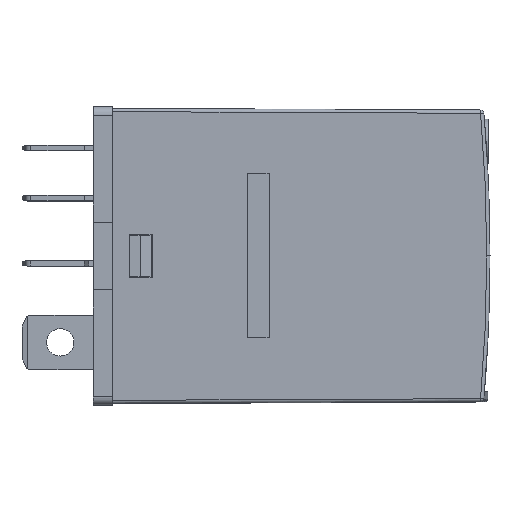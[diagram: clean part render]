
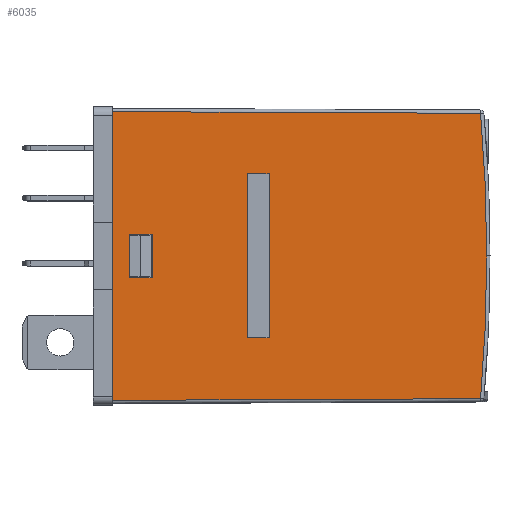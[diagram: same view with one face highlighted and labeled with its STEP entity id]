
A CAD part, front view. The second image highlights one B-rep face of the part: STEP entity #6035.
In plain terms, the highlighted planar face has unit normal (0.004, -1, 0).
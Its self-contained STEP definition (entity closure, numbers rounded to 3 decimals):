
#891 = CARTESIAN_POINT ( 'NONE',  ( 3.3, 0.057, -32.149 ) ) ;
#1062 = EDGE_CURVE ( 'NONE', #78892, #42628, #83824, .T. ) ;
#1572 = LINE ( 'NONE', #7941, #65238 ) ;
#1637 = EDGE_CURVE ( 'NONE', #22990, #68356, #79551, .T. ) ;
#3026 = ORIENTED_EDGE ( 'NONE', *, *, #76703, .F. ) ;
#3088 = VECTOR ( 'NONE', #35453, 1000. ) ;
#3672 = VECTOR ( 'NONE', #50043, 1000. ) ;
#3732 = CARTESIAN_POINT ( 'NONE',  ( 36.313, 0.201, 20.351 ) ) ;
#4079 = CARTESIAN_POINT ( 'NONE',  ( 16.1, 0.113, 5.351 ) ) ;
#4261 = CARTESIAN_POINT ( 'NONE',  ( 36.313, 0.201, 14.851 ) ) ;
#4457 = CARTESIAN_POINT ( 'NONE',  ( 36.313, 0.201, 10.851 ) ) ;
#4610 = CARTESIAN_POINT ( 'NONE',  ( 36.001, 0.2, 17.207 ) ) ;
#5501 = CARTESIAN_POINT ( 'NONE',  ( 35.814, 0.199, 4.139 ) ) ;
#6035 = ADVANCED_FACE ( 'NONE', ( #21326, #56928, #42221 ), #16628, .F. ) ;
#6090 = VERTEX_POINT ( 'NONE', #45081 ) ;
#7219 = VERTEX_POINT ( 'NONE', #15490 ) ;
#7941 = CARTESIAN_POINT ( 'NONE',  ( 16.1, 0.113, -32.149 ) ) ;
#9721 = CARTESIAN_POINT ( 'NONE',  ( 1.8, 0.051, -32.149 ) ) ;
#11766 = ORIENTED_EDGE ( 'NONE', *, *, #52817, .F. ) ;
#12381 = LINE ( 'NONE', #83014, #12537 ) ;
#12537 = VECTOR ( 'NONE', #25964, 1000. ) ;
#13244 = DIRECTION ( 'NONE',  ( 1., 0.004, 0. ) ) ;
#13257 = EDGE_LOOP ( 'NONE', ( #43803, #64417, #17027, #3026, #57663 ) ) ;
#14719 = DIRECTION ( 'NONE',  ( 0., 0., 1. ) ) ;
#15145 = VERTEX_POINT ( 'NONE', #65519 ) ;
#15358 = DIRECTION ( 'NONE',  ( -0.004, 1., 0. ) ) ;
#15490 = CARTESIAN_POINT ( 'NONE',  ( 1.8, 0.051, 26.051 ) ) ;
#16024 = EDGE_LOOP ( 'NONE', ( #43428, #17451, #41653, #62856 ) ) ;
#16211 = DIRECTION ( 'NONE',  ( -1., -0.004, 0. ) ) ;
#16628 = PLANE ( 'NONE',  #44830 ) ;
#17027 = ORIENTED_EDGE ( 'NONE', *, *, #47170, .F. ) ;
#17451 = ORIENTED_EDGE ( 'NONE', *, *, #68518, .F. ) ;
#19443 = VERTEX_POINT ( 'NONE', #70448 ) ;
#19604 = LINE ( 'NONE', #71528, #63318 ) ;
#20760 = CARTESIAN_POINT ( 'NONE',  ( 16.1, 0.113, 20.351 ) ) ;
#21326 = FACE_BOUND ( 'NONE', #77433, .T. ) ;
#21375 = EDGE_CURVE ( 'NONE', #15145, #78892, #46560, .T. ) ;
#22990 = VERTEX_POINT ( 'NONE', #47553 ) ;
#23642 = LINE ( 'NONE', #3732, #55914 ) ;
#25964 = DIRECTION ( 'NONE',  ( 0., 0., 1. ) ) ;
#26065 = VERTEX_POINT ( 'NONE', #20760 ) ;
#27170 = CARTESIAN_POINT ( 'NONE',  ( 35.439, 0.197, -0.2 ) ) ;
#27738 = CARTESIAN_POINT ( 'NONE',  ( 1.8, 0.051, 26.051 ) ) ;
#28326 = VECTOR ( 'NONE', #56065, 1000. ) ;
#28394 = EDGE_CURVE ( 'NONE', #68356, #6090, #57182, .T. ) ;
#28625 = CARTESIAN_POINT ( 'NONE',  ( 35.439, 0.197, -0.2 ) ) ;
#29176 = VECTOR ( 'NONE', #73151, 1000. ) ;
#30212 = DIRECTION ( 'NONE',  ( -1., -0.004, 0. ) ) ;
#30990 = CARTESIAN_POINT ( 'NONE',  ( 35.439, 0.197, 25.902 ) ) ;
#31691 = CARTESIAN_POINT ( 'NONE',  ( 3.3, 0.057, 10.851 ) ) ;
#35027 = LINE ( 'NONE', #27738, #3088 ) ;
#35453 = DIRECTION ( 'NONE',  ( 1., 0.004, -0.004 ) ) ;
#36675 = LINE ( 'NONE', #56169, #59280 ) ;
#37490 = LINE ( 'NONE', #4261, #39790 ) ;
#39790 = VECTOR ( 'NONE', #30212, 1000. ) ;
#39955 = ORIENTED_EDGE ( 'NONE', *, *, #1637, .F. ) ;
#41653 = ORIENTED_EDGE ( 'NONE', *, *, #52349, .F. ) ;
#42221 = FACE_OUTER_BOUND ( 'NONE', #13257, .T. ) ;
#42628 = VERTEX_POINT ( 'NONE', #28625 ) ;
#42684 = EDGE_CURVE ( 'NONE', #6090, #59681, #12381, .T. ) ;
#43428 = ORIENTED_EDGE ( 'NONE', *, *, #69525, .F. ) ;
#43803 = ORIENTED_EDGE ( 'NONE', *, *, #21375, .F. ) ;
#44685 = CARTESIAN_POINT ( 'NONE',  ( 35.439, 0.197, -0.2 ) ) ;
#44830 = AXIS2_PLACEMENT_3D ( 'NONE', #76471, #15358, #16211 ) ;
#45081 = CARTESIAN_POINT ( 'NONE',  ( 5.4, 0.067, 10.851 ) ) ;
#45087 = VERTEX_POINT ( 'NONE', #65008 ) ;
#45475 = CARTESIAN_POINT ( 'NONE',  ( 35.814, 0.199, 21.562 ) ) ;
#46560 = B_SPLINE_CURVE_WITH_KNOTS ( 'NONE', 3,
 ( #30990, #45475, #4610, #71328 ),
 .UNSPECIFIED., .F., .F.,
 ( 4, 4 ),
 ( 0., 1. ),
 .UNSPECIFIED. ) ;
#46689 = VERTEX_POINT ( 'NONE', #4079 ) ;
#47170 = EDGE_CURVE ( 'NONE', #45087, #7219, #63238, .T. ) ;
#47553 = CARTESIAN_POINT ( 'NONE',  ( 3.3, 0.057, 14.851 ) ) ;
#48136 = VERTEX_POINT ( 'NONE', #57034 ) ;
#49303 = DIRECTION ( 'NONE',  ( -1., -0.004, 0. ) ) ;
#50043 = DIRECTION ( 'NONE',  ( 1., 0.004, 0. ) ) ;
#52349 = EDGE_CURVE ( 'NONE', #26065, #48136, #23642, .T. ) ;
#52817 = EDGE_CURVE ( 'NONE', #59681, #22990, #37490, .T. ) ;
#54605 = ORIENTED_EDGE ( 'NONE', *, *, #28394, .F. ) ;
#55914 = VECTOR ( 'NONE', #49303, 1000. ) ;
#56065 = DIRECTION ( 'NONE',  ( 0., 0., 1. ) ) ;
#56169 = CARTESIAN_POINT ( 'NONE',  ( 14.1, 0.104, -32.149 ) ) ;
#56928 = FACE_BOUND ( 'NONE', #16024, .T. ) ;
#57034 = CARTESIAN_POINT ( 'NONE',  ( 14.1, 0.104, 20.351 ) ) ;
#57182 = LINE ( 'NONE', #4457, #3672 ) ;
#57383 = CARTESIAN_POINT ( 'NONE',  ( 36.001, 0.2, 8.495 ) ) ;
#57663 = ORIENTED_EDGE ( 'NONE', *, *, #1062, .F. ) ;
#59280 = VECTOR ( 'NONE', #82125, 1000. ) ;
#59490 = LINE ( 'NONE', #27170, #67219 ) ;
#59681 = VERTEX_POINT ( 'NONE', #80156 ) ;
#62503 = EDGE_CURVE ( 'NONE', #7219, #15145, #35027, .T. ) ;
#62856 = ORIENTED_EDGE ( 'NONE', *, *, #64180, .F. ) ;
#63238 = LINE ( 'NONE', #9721, #28326 ) ;
#63318 = VECTOR ( 'NONE', #13244, 1000. ) ;
#63758 = CARTESIAN_POINT ( 'NONE',  ( 36.001, 0.2, 12.851 ) ) ;
#64180 = EDGE_CURVE ( 'NONE', #46689, #26065, #1572, .T. ) ;
#64417 = ORIENTED_EDGE ( 'NONE', *, *, #62503, .F. ) ;
#65008 = CARTESIAN_POINT ( 'NONE',  ( 1.8, 0.051, -0.349 ) ) ;
#65238 = VECTOR ( 'NONE', #14719, 1000. ) ;
#65372 = ORIENTED_EDGE ( 'NONE', *, *, #42684, .F. ) ;
#65519 = CARTESIAN_POINT ( 'NONE',  ( 35.439, 0.197, 25.902 ) ) ;
#67219 = VECTOR ( 'NONE', #72241, 1000. ) ;
#68356 = VERTEX_POINT ( 'NONE', #31691 ) ;
#68518 = EDGE_CURVE ( 'NONE', #48136, #19443, #36675, .T. ) ;
#69525 = EDGE_CURVE ( 'NONE', #19443, #46689, #19604, .T. ) ;
#70448 = CARTESIAN_POINT ( 'NONE',  ( 14.1, 0.104, 5.351 ) ) ;
#71328 = CARTESIAN_POINT ( 'NONE',  ( 36.001, 0.2, 12.851 ) ) ;
#71528 = CARTESIAN_POINT ( 'NONE',  ( 36.313, 0.201, 5.351 ) ) ;
#72241 = DIRECTION ( 'NONE',  ( -1., -0.004, -0.004 ) ) ;
#73151 = DIRECTION ( 'NONE',  ( 0., 0., -1. ) ) ;
#76471 = CARTESIAN_POINT ( 'NONE',  ( 36.313, 0.201, -32.149 ) ) ;
#76703 = EDGE_CURVE ( 'NONE', #42628, #45087, #59490, .T. ) ;
#76826 = CARTESIAN_POINT ( 'NONE',  ( 36.001, 0.2, 12.851 ) ) ;
#77433 = EDGE_LOOP ( 'NONE', ( #54605, #39955, #11766, #65372 ) ) ;
#78892 = VERTEX_POINT ( 'NONE', #76826 ) ;
#79551 = LINE ( 'NONE', #891, #29176 ) ;
#80156 = CARTESIAN_POINT ( 'NONE',  ( 5.4, 0.067, 14.851 ) ) ;
#82125 = DIRECTION ( 'NONE',  ( 0., 0., -1. ) ) ;
#83014 = CARTESIAN_POINT ( 'NONE',  ( 5.4, 0.067, -32.149 ) ) ;
#83824 = B_SPLINE_CURVE_WITH_KNOTS ( 'NONE', 3,
 ( #63758, #57383, #5501, #44685 ),
 .UNSPECIFIED., .F., .F.,
 ( 4, 4 ),
 ( 0., 1. ),
 .UNSPECIFIED. ) ;
